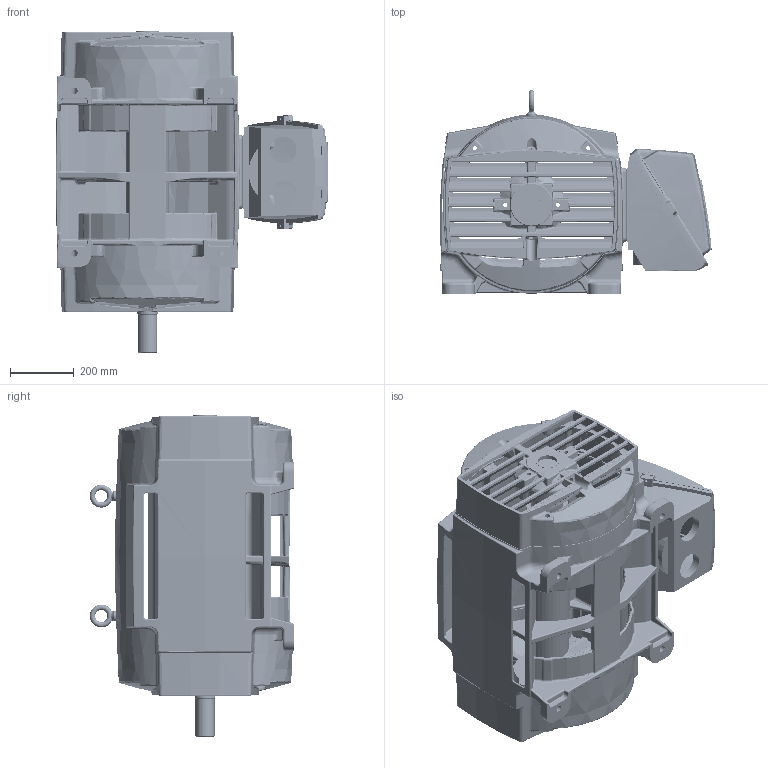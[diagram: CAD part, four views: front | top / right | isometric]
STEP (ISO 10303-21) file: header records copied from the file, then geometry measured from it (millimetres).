
FILE_DESCRIPTION((''),'2;1');
FILE_NAME('447_4POLE_ASM','2014-08-14T',('NMC779F'),('Nidec Motor Corporation'),'PRO/ENGINEER BY PARAMETRIC TECHNOLOGY CORPORATION, 2013150','PRO/ENGINEER BY PARAMETRIC TECHNOLOGY CORPORATION, 2013150','');
FILE_SCHEMA(('CONFIG_CONTROL_DESIGN'));
Length unit declared in the file: inch
Products named in the file (9): 0185167; 0176022; 0142469; 0441223; 0013350; 0360117; 0189737; 0189734; 447_4POLE_ASM
Assembly tree (10 placements, depth 2):
  447_4POLE_ASM
    0185167
    0176022  x2
    0142469
    0441223
    0013350  x2
    0360117
    0189737
    0189734
Bounding box: 851.57 x 639.17 x 1004.04 mm (x, y, z)
Volume: 44865931.3 mm3; surface area: 6578264.9 mm2
Topology: 12 solids, 12 shells, 6758 faces, 16167 edges, 9295 vertices
Faces by surface type: bspline 3217, cylinder 1310, plane 900, torus 729, cone 346, sphere 246, revolution 10
Entity records: 228286 total; most frequent: CARTESIAN_POINT 135754, ORIENTED_EDGE 22262, DIRECTION 15582, EDGE_CURVE 11131, AXIS2_PLACEMENT_3D 6709, VERTEX_POINT 6433, B_SPLINE_CURVE_WITH_KNOTS 4818, EDGE_LOOP 4814
